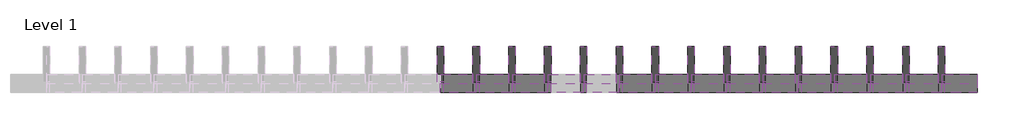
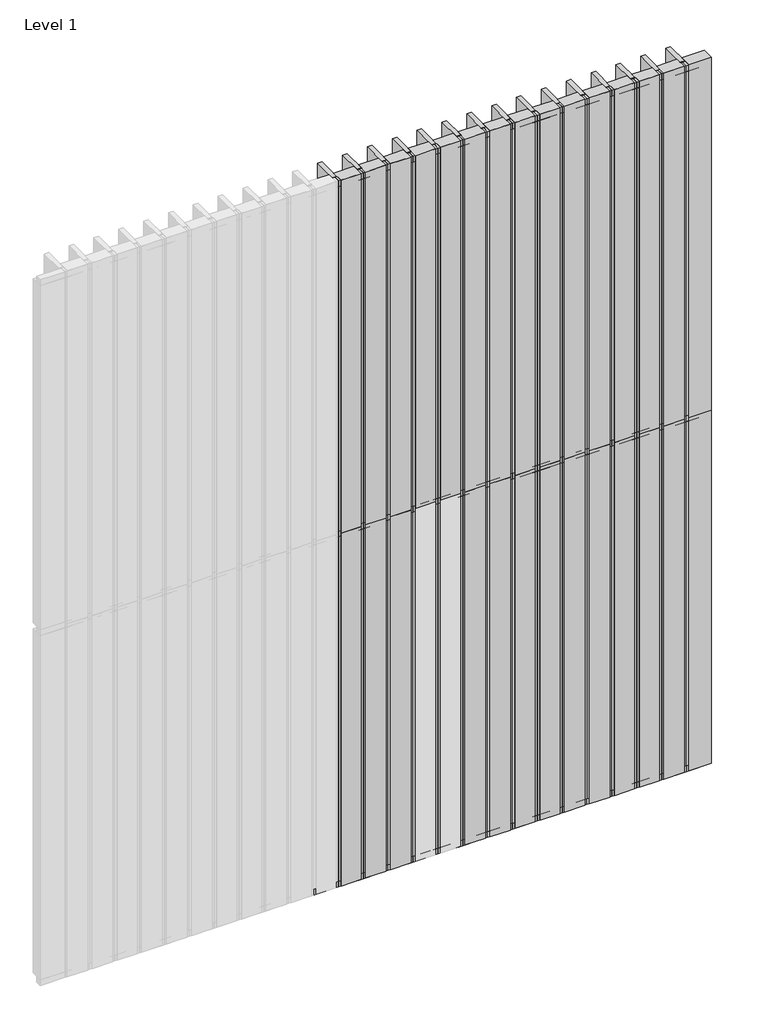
# One storey, part 2 of 2: 76 members, 58 plates.
"""IFC4 building model written with IfcOpenShell, lengths in millimetres."""

from ifc_helpers import new_model, si_unit, origin, place, context, project, spatial, transform, mapped, element, save
from components import rectangular_mullion_20bdfb12, rectangular_mullion_614df7cf, rectangular_mullion_a06afc58, rectangular_mullion_7d91d70c, empty_system_panel_empty_c6c0e791, empty_system_panel_empty_de494967, empty_system_panel_empty_763ef950

model = new_model("IFC4")

# Units and contexts
model_context = context("Model", 3, world=origin())
ifc_project = project(units=[si_unit("LENGTHUNIT", "METRE", prefix="MILLI")], contexts=[model_context])

# Site, building, storey
site = spatial("IfcSite", under=ifc_project)
building = spatial("IfcBuilding", under=site)
storey = spatial("IfcBuildingStorey", under=building, Name="Level 1", Elevation=0.0)

# Members
placement = place(None, origin())
rectangular_mullion_shape = rectangular_mullion_20bdfb12(model_context)
element("IfcMember", 1, ObjectType="Rectangular Mullion : RSen_21_CWM_blade - cubic 200 - 0°_gen_duco projects", at=placement, inside=storey, context=model_context, shape_type="MappedRepresentation", body=[
    mapped(rectangular_mullion_shape, transform((5800.0, 3000.0, 0.0), x_axis=(-1.0, 0.0, 0.0), y_axis=(0.0, 1.0, 0.0), z_axis=(0.0, 0.0, -1.0))),
])
element("IfcMember", 2, ObjectType="Rectangular Mullion : RSen_21_CWM_blade - cubic 200 - 0°_gen_duco projects", at=placement, inside=storey, context=model_context, shape_type="MappedRepresentation", body=[
    mapped(rectangular_mullion_shape, transform((5600.0, 3000.0, 0.0), x_axis=(-1.0, 0.0, 0.0), y_axis=(0.0, 1.0, 0.0), z_axis=(0.0, 0.0, -1.0))),
])
element("IfcMember", 3, ObjectType="Rectangular Mullion : RSen_21_CWM_blade - cubic 200 - 0°_gen_duco projects", at=placement, inside=storey, context=model_context, shape_type="MappedRepresentation", body=[
    mapped(rectangular_mullion_shape, transform((5400.0, 3000.0, 0.0), x_axis=(-1.0, 0.0, 0.0), y_axis=(0.0, 1.0, 0.0), z_axis=(0.0, 0.0, -1.0))),
])
element("IfcMember", 4, ObjectType="Rectangular Mullion : RSen_21_CWM_blade - cubic 200 - 0°_gen_duco projects", at=placement, inside=storey, context=model_context, shape_type="MappedRepresentation", body=[
    mapped(rectangular_mullion_shape, transform((5200.0, 3000.0, 0.0), x_axis=(-1.0, 0.0, 0.0), y_axis=(0.0, 1.0, 0.0), z_axis=(0.0, 0.0, -1.0))),
])
element("IfcMember", 5, ObjectType="Rectangular Mullion : RSen_21_CWM_blade - cubic 200 - 0°_gen_duco projects", at=placement, inside=storey, context=model_context, shape_type="MappedRepresentation", body=[
    mapped(rectangular_mullion_shape, transform((5000.0, 3000.0, 0.0), x_axis=(-1.0, 0.0, 0.0), y_axis=(0.0, 1.0, 0.0), z_axis=(0.0, 0.0, -1.0))),
])
element("IfcMember", 6, ObjectType="Rectangular Mullion : RSen_21_CWM_blade - cubic 200 - 0°_gen_duco projects", at=placement, inside=storey, context=model_context, shape_type="MappedRepresentation", body=[
    mapped(rectangular_mullion_shape, transform((4800.0, 3000.0, 0.0), x_axis=(-1.0, 0.0, 0.0), y_axis=(0.0, 1.0, 0.0), z_axis=(0.0, 0.0, -1.0))),
])
element("IfcMember", 7, ObjectType="Rectangular Mullion : RSen_21_CWM_blade - cubic 200 - 0°_gen_duco projects", at=placement, inside=storey, context=model_context, shape_type="MappedRepresentation", body=[
    mapped(rectangular_mullion_shape, transform((4600.0, 3000.0, 0.0), x_axis=(-1.0, 0.0, 0.0), y_axis=(0.0, 1.0, 0.0), z_axis=(0.0, 0.0, -1.0))),
])
element("IfcMember", 8, ObjectType="Rectangular Mullion : RSen_21_CWM_blade - cubic 200 - 0°_gen_duco projects", at=placement, inside=storey, context=model_context, shape_type="MappedRepresentation", body=[
    mapped(rectangular_mullion_shape, transform((4400.0, 3000.0, 0.0), x_axis=(-1.0, 0.0, 0.0), y_axis=(0.0, 1.0, 0.0), z_axis=(0.0, 0.0, -1.0))),
])
element("IfcMember", 9, ObjectType="Rectangular Mullion : RSen_21_CWM_blade - cubic 200 - 0°_gen_duco projects", at=placement, inside=storey, context=model_context, shape_type="MappedRepresentation", body=[
    mapped(rectangular_mullion_shape, transform((4200.0, 3000.0, 0.0), x_axis=(-1.0, 0.0, 0.0), y_axis=(0.0, 1.0, 0.0), z_axis=(0.0, 0.0, -1.0))),
])
element("IfcMember", 10, ObjectType="Rectangular Mullion : RSen_21_CWM_blade - cubic 200 - 0°_gen_duco projects", at=placement, inside=storey, context=model_context, shape_type="MappedRepresentation", body=[
    mapped(rectangular_mullion_shape, transform((4000.0, 3000.0, 0.0), x_axis=(-1.0, 0.0, 0.0), y_axis=(0.0, 1.0, 0.0), z_axis=(0.0, 0.0, -1.0))),
])
element("IfcMember", 11, ObjectType="Rectangular Mullion : RSen_21_CWM_blade - cubic 200 - 0°_gen_duco projects", at=placement, inside=storey, context=model_context, shape_type="MappedRepresentation", body=[
    mapped(rectangular_mullion_shape, transform((3800.0, 3000.0, 0.0), x_axis=(-1.0, 0.0, 0.0), y_axis=(0.0, 1.0, 0.0), z_axis=(0.0, 0.0, -1.0))),
])
element("IfcMember", 12, ObjectType="Rectangular Mullion : RSen_21_CWM_blade - cubic 200 - 0°_gen_duco projects", at=placement, inside=storey, context=model_context, shape_type="MappedRepresentation", body=[
    mapped(rectangular_mullion_shape, transform((3600.0, 3000.0, 0.0), x_axis=(-1.0, 0.0, 0.0), y_axis=(0.0, 1.0, 0.0), z_axis=(0.0, 0.0, -1.0))),
])
element("IfcMember", 13, ObjectType="Rectangular Mullion : RSen_21_CWM_blade - cubic 200 - 0°_gen_duco projects", at=placement, inside=storey, context=model_context, shape_type="MappedRepresentation", body=[
    mapped(rectangular_mullion_shape, transform((3400.0, 3000.0, 0.0), x_axis=(-1.0, 0.0, 0.0), y_axis=(0.0, 1.0, 0.0), z_axis=(0.0, 0.0, -1.0))),
])
element("IfcMember", 14, ObjectType="Rectangular Mullion : RSen_21_CWM_blade - cubic 200 - 0°_gen_duco projects", at=placement, inside=storey, context=model_context, shape_type="MappedRepresentation", body=[
    mapped(rectangular_mullion_shape, transform((3200.0, 3000.0, 0.0), x_axis=(-1.0, 0.0, 0.0), y_axis=(0.0, 1.0, 0.0), z_axis=(0.0, 0.0, -1.0))),
])
element("IfcMember", 15, ObjectType="Rectangular Mullion : RSen_21_CWM_blade - cubic 200 - 0°_gen_duco projects", at=placement, inside=storey, context=model_context, shape_type="MappedRepresentation", body=[
    mapped(rectangular_mullion_shape, transform((3000.0, 3000.0, 0.0), x_axis=(-1.0, 0.0, 0.0), y_axis=(0.0, 1.0, 0.0), z_axis=(0.0, 0.0, -1.0))),
])
element("IfcMember", 16, ObjectType="Rectangular Mullion : RSen_21_CWM_blade - cubic 200 - 0°_gen_duco projects", at=placement, inside=storey, context=model_context, shape_type="MappedRepresentation", body=[
    mapped(rectangular_mullion_shape, transform((5800.0, 3000.0, 3000.0), x_axis=(-1.0, 0.0, 0.0), y_axis=(0.0, 1.0, 0.0), z_axis=(0.0, 0.0, -1.0))),
])
element("IfcMember", 17, ObjectType="Rectangular Mullion : RSen_21_CWM_blade - cubic 200 - 0°_gen_duco projects", at=placement, inside=storey, context=model_context, shape_type="MappedRepresentation", body=[
    mapped(rectangular_mullion_shape, transform((5600.0, 3000.0, 3000.0), x_axis=(-1.0, 0.0, 0.0), y_axis=(0.0, 1.0, 0.0), z_axis=(0.0, 0.0, -1.0))),
])
element("IfcMember", 18, ObjectType="Rectangular Mullion : RSen_21_CWM_blade - cubic 200 - 0°_gen_duco projects", at=placement, inside=storey, context=model_context, shape_type="MappedRepresentation", body=[
    mapped(rectangular_mullion_shape, transform((5400.0, 3000.0, 3000.0), x_axis=(-1.0, 0.0, 0.0), y_axis=(0.0, 1.0, 0.0), z_axis=(0.0, 0.0, -1.0))),
])
element("IfcMember", 19, ObjectType="Rectangular Mullion : RSen_21_CWM_blade - cubic 200 - 0°_gen_duco projects", at=placement, inside=storey, context=model_context, shape_type="MappedRepresentation", body=[
    mapped(rectangular_mullion_shape, transform((5200.0, 3000.0, 3000.0), x_axis=(-1.0, 0.0, 0.0), y_axis=(0.0, 1.0, 0.0), z_axis=(0.0, 0.0, -1.0))),
])
element("IfcMember", 20, ObjectType="Rectangular Mullion : RSen_21_CWM_blade - cubic 200 - 0°_gen_duco projects", at=placement, inside=storey, context=model_context, shape_type="MappedRepresentation", body=[
    mapped(rectangular_mullion_shape, transform((5000.0, 3000.0, 3000.0), x_axis=(-1.0, 0.0, 0.0), y_axis=(0.0, 1.0, 0.0), z_axis=(0.0, 0.0, -1.0))),
])
element("IfcMember", 21, ObjectType="Rectangular Mullion : RSen_21_CWM_blade - cubic 200 - 0°_gen_duco projects", at=placement, inside=storey, context=model_context, shape_type="MappedRepresentation", body=[
    mapped(rectangular_mullion_shape, transform((4800.0, 3000.0, 3000.0), x_axis=(-1.0, 0.0, 0.0), y_axis=(0.0, 1.0, 0.0), z_axis=(0.0, 0.0, -1.0))),
])
element("IfcMember", 22, ObjectType="Rectangular Mullion : RSen_21_CWM_blade - cubic 200 - 0°_gen_duco projects", at=placement, inside=storey, context=model_context, shape_type="MappedRepresentation", body=[
    mapped(rectangular_mullion_shape, transform((4600.0, 3000.0, 3000.0), x_axis=(-1.0, 0.0, 0.0), y_axis=(0.0, 1.0, 0.0), z_axis=(0.0, 0.0, -1.0))),
])
element("IfcMember", 23, ObjectType="Rectangular Mullion : RSen_21_CWM_blade - cubic 200 - 0°_gen_duco projects", at=placement, inside=storey, context=model_context, shape_type="MappedRepresentation", body=[
    mapped(rectangular_mullion_shape, transform((4400.0, 3000.0, 3000.0), x_axis=(-1.0, 0.0, 0.0), y_axis=(0.0, 1.0, 0.0), z_axis=(0.0, 0.0, -1.0))),
])
element("IfcMember", 24, ObjectType="Rectangular Mullion : RSen_21_CWM_blade - cubic 200 - 0°_gen_duco projects", at=placement, inside=storey, context=model_context, shape_type="MappedRepresentation", body=[
    mapped(rectangular_mullion_shape, transform((4200.0, 3000.0, 3000.0), x_axis=(-1.0, 0.0, 0.0), y_axis=(0.0, 1.0, 0.0), z_axis=(0.0, 0.0, -1.0))),
])
element("IfcMember", 25, ObjectType="Rectangular Mullion : RSen_21_CWM_blade - cubic 200 - 0°_gen_duco projects", at=placement, inside=storey, context=model_context, shape_type="MappedRepresentation", body=[
    mapped(rectangular_mullion_shape, transform((4000.0, 3000.0, 3000.0), x_axis=(-1.0, 0.0, 0.0), y_axis=(0.0, 1.0, 0.0), z_axis=(0.0, 0.0, -1.0))),
])
element("IfcMember", 26, ObjectType="Rectangular Mullion : RSen_21_CWM_blade - cubic 200 - 0°_gen_duco projects", at=placement, inside=storey, context=model_context, shape_type="MappedRepresentation", body=[
    mapped(rectangular_mullion_shape, transform((3800.0, 3000.0, 3000.0), x_axis=(-1.0, 0.0, 0.0), y_axis=(0.0, 1.0, 0.0), z_axis=(0.0, 0.0, -1.0))),
])
element("IfcMember", 27, ObjectType="Rectangular Mullion : RSen_21_CWM_blade - cubic 200 - 0°_gen_duco projects", at=placement, inside=storey, context=model_context, shape_type="MappedRepresentation", body=[
    mapped(rectangular_mullion_shape, transform((3600.0, 3000.0, 3000.0), x_axis=(-1.0, 0.0, 0.0), y_axis=(0.0, 1.0, 0.0), z_axis=(0.0, 0.0, -1.0))),
])
element("IfcMember", 28, ObjectType="Rectangular Mullion : RSen_21_CWM_blade - cubic 200 - 0°_gen_duco projects", at=placement, inside=storey, context=model_context, shape_type="MappedRepresentation", body=[
    mapped(rectangular_mullion_shape, transform((3400.0, 3000.0, 3000.0), x_axis=(-1.0, 0.0, 0.0), y_axis=(0.0, 1.0, 0.0), z_axis=(0.0, 0.0, -1.0))),
])
element("IfcMember", 29, ObjectType="Rectangular Mullion : RSen_21_CWM_blade - cubic 200 - 0°_gen_duco projects", at=placement, inside=storey, context=model_context, shape_type="MappedRepresentation", body=[
    mapped(rectangular_mullion_shape, transform((3200.0, 3000.0, 3000.0), x_axis=(-1.0, 0.0, 0.0), y_axis=(0.0, 1.0, 0.0), z_axis=(0.0, 0.0, -1.0))),
])
element("IfcMember", 30, ObjectType="Rectangular Mullion : RSen_21_CWM_blade - cubic 200 - 0°_gen_duco projects", at=placement, inside=storey, context=model_context, shape_type="MappedRepresentation", body=[
    mapped(rectangular_mullion_shape, transform((3000.0, 3000.0, 3000.0), x_axis=(-1.0, 0.0, 0.0), y_axis=(0.0, 1.0, 0.0), z_axis=(0.0, 0.0, -1.0))),
])
rectangular_mullion_2_shape = rectangular_mullion_614df7cf(model_context)
element("IfcMember", 31, ObjectType="Rectangular Mullion : RSen_21_CWM_support profile 50x50 - right_gen_duco projects", at=placement, inside=storey, context=model_context, shape_type="MappedRepresentation", body=[
    mapped(rectangular_mullion_2_shape, transform((6000.0, 3000.0, 0.0), x_axis=(0.0, 0.0, -1.0), y_axis=(0.0, 1.0, 0.0), z_axis=(1.0, 0.0, 0.0))),
])
rectangular_mullion_3_shape = rectangular_mullion_a06afc58(model_context)
element("IfcMember", 32, ObjectType="Rectangular Mullion : RSen_21_CWM_support profile 50x50 - left_gen_duco projects", at=placement, inside=storey, context=model_context, shape_type="MappedRepresentation", body=[
    mapped(rectangular_mullion_3_shape, transform((5800.0, 3000.0, 6000.0), x_axis=(0.0, 0.0, 1.0), y_axis=(0.0, 1.0, 0.0), z_axis=(-1.0, 0.0, 0.0))),
])
element("IfcMember", 33, ObjectType="Rectangular Mullion : RSen_21_CWM_support profile 50x50 - left_gen_duco projects", at=placement, inside=storey, context=model_context, shape_type="MappedRepresentation", body=[
    mapped(rectangular_mullion_3_shape, transform((5600.0, 3000.0, 6000.0), x_axis=(0.0, 0.0, 1.0), y_axis=(0.0, 1.0, 0.0), z_axis=(-1.0, 0.0, 0.0))),
])
element("IfcMember", 34, ObjectType="Rectangular Mullion : RSen_21_CWM_support profile 50x50 - left_gen_duco projects", at=placement, inside=storey, context=model_context, shape_type="MappedRepresentation", body=[
    mapped(rectangular_mullion_3_shape, transform((5400.0, 3000.0, 6000.0), x_axis=(0.0, 0.0, 1.0), y_axis=(0.0, 1.0, 0.0), z_axis=(-1.0, 0.0, 0.0))),
])
element("IfcMember", 35, ObjectType="Rectangular Mullion : RSen_21_CWM_support profile 50x50 - left_gen_duco projects", at=placement, inside=storey, context=model_context, shape_type="MappedRepresentation", body=[
    mapped(rectangular_mullion_3_shape, transform((5200.0, 3000.0, 6000.0), x_axis=(0.0, 0.0, 1.0), y_axis=(0.0, 1.0, 0.0), z_axis=(-1.0, 0.0, 0.0))),
])
element("IfcMember", 36, ObjectType="Rectangular Mullion : RSen_21_CWM_support profile 50x50 - left_gen_duco projects", at=placement, inside=storey, context=model_context, shape_type="MappedRepresentation", body=[
    mapped(rectangular_mullion_3_shape, transform((5000.0, 3000.0, 6000.0), x_axis=(0.0, 0.0, 1.0), y_axis=(0.0, 1.0, 0.0), z_axis=(-1.0, 0.0, 0.0))),
])
element("IfcMember", 37, ObjectType="Rectangular Mullion : RSen_21_CWM_support profile 50x50 - left_gen_duco projects", at=placement, inside=storey, context=model_context, shape_type="MappedRepresentation", body=[
    mapped(rectangular_mullion_3_shape, transform((4800.0, 3000.0, 6000.0), x_axis=(0.0, 0.0, 1.0), y_axis=(0.0, 1.0, 0.0), z_axis=(-1.0, 0.0, 0.0))),
])
element("IfcMember", 38, ObjectType="Rectangular Mullion : RSen_21_CWM_support profile 50x50 - left_gen_duco projects", at=placement, inside=storey, context=model_context, shape_type="MappedRepresentation", body=[
    mapped(rectangular_mullion_3_shape, transform((4600.0, 3000.0, 6000.0), x_axis=(0.0, 0.0, 1.0), y_axis=(0.0, 1.0, 0.0), z_axis=(-1.0, 0.0, 0.0))),
])
element("IfcMember", 39, ObjectType="Rectangular Mullion : RSen_21_CWM_support profile 50x50 - left_gen_duco projects", at=placement, inside=storey, context=model_context, shape_type="MappedRepresentation", body=[
    mapped(rectangular_mullion_3_shape, transform((4400.0, 3000.0, 6000.0), x_axis=(0.0, 0.0, 1.0), y_axis=(0.0, 1.0, 0.0), z_axis=(-1.0, 0.0, 0.0))),
])
element("IfcMember", 40, ObjectType="Rectangular Mullion : RSen_21_CWM_support profile 50x50 - left_gen_duco projects", at=placement, inside=storey, context=model_context, shape_type="MappedRepresentation", body=[
    mapped(rectangular_mullion_3_shape, transform((4200.0, 3000.0, 6000.0), x_axis=(0.0, 0.0, 1.0), y_axis=(0.0, 1.0, 0.0), z_axis=(-1.0, 0.0, 0.0))),
])
element("IfcMember", 41, ObjectType="Rectangular Mullion : RSen_21_CWM_support profile 50x50 - left_gen_duco projects", at=placement, inside=storey, context=model_context, shape_type="MappedRepresentation", body=[
    mapped(rectangular_mullion_3_shape, transform((4000.0, 3000.0, 6000.0), x_axis=(0.0, 0.0, 1.0), y_axis=(0.0, 1.0, 0.0), z_axis=(-1.0, 0.0, 0.0))),
])
element("IfcMember", 42, ObjectType="Rectangular Mullion : RSen_21_CWM_support profile 50x50 - left_gen_duco projects", at=placement, inside=storey, context=model_context, shape_type="MappedRepresentation", body=[
    mapped(rectangular_mullion_3_shape, transform((3800.0, 3000.0, 6000.0), x_axis=(0.0, 0.0, 1.0), y_axis=(0.0, 1.0, 0.0), z_axis=(-1.0, 0.0, 0.0))),
])
element("IfcMember", 43, ObjectType="Rectangular Mullion : RSen_21_CWM_support profile 50x50 - left_gen_duco projects", at=placement, inside=storey, context=model_context, shape_type="MappedRepresentation", body=[
    mapped(rectangular_mullion_3_shape, transform((3600.0, 3000.0, 6000.0), x_axis=(0.0, 0.0, 1.0), y_axis=(0.0, 1.0, 0.0), z_axis=(-1.0, 0.0, 0.0))),
])
element("IfcMember", 44, ObjectType="Rectangular Mullion : RSen_21_CWM_support profile 50x50 - left_gen_duco projects", at=placement, inside=storey, context=model_context, shape_type="MappedRepresentation", body=[
    mapped(rectangular_mullion_3_shape, transform((3400.0, 3000.0, 6000.0), x_axis=(0.0, 0.0, 1.0), y_axis=(0.0, 1.0, 0.0), z_axis=(-1.0, 0.0, 0.0))),
])
element("IfcMember", 45, ObjectType="Rectangular Mullion : RSen_21_CWM_support profile 50x50 - left_gen_duco projects", at=placement, inside=storey, context=model_context, shape_type="MappedRepresentation", body=[
    mapped(rectangular_mullion_3_shape, transform((3200.0, 3000.0, 6000.0), x_axis=(0.0, 0.0, 1.0), y_axis=(0.0, 1.0, 0.0), z_axis=(-1.0, 0.0, 0.0))),
])
element("IfcMember", 46, ObjectType="Rectangular Mullion : RSen_21_CWM_support profile 50x50 - left_gen_duco projects", at=placement, inside=storey, context=model_context, shape_type="MappedRepresentation", body=[
    mapped(rectangular_mullion_3_shape, transform((3000.0, 3000.0, 6000.0), x_axis=(0.0, 0.0, 1.0), y_axis=(0.0, 1.0, 0.0), z_axis=(-1.0, 0.0, 0.0))),
])
element("IfcMember", 47, ObjectType="Rectangular Mullion : RSen_21_CWM_support profile 50x50 - right_gen_duco projects", at=placement, inside=storey, context=model_context, shape_type="MappedRepresentation", body=[
    mapped(rectangular_mullion_2_shape, transform((5800.0, 3000.0, 0.0), x_axis=(0.0, 0.0, -1.0), y_axis=(0.0, 1.0, 0.0), z_axis=(1.0, 0.0, 0.0))),
])
element("IfcMember", 48, ObjectType="Rectangular Mullion : RSen_21_CWM_support profile 50x50 - right_gen_duco projects", at=placement, inside=storey, context=model_context, shape_type="MappedRepresentation", body=[
    mapped(rectangular_mullion_2_shape, transform((5600.0, 3000.0, 0.0), x_axis=(0.0, 0.0, -1.0), y_axis=(0.0, 1.0, 0.0), z_axis=(1.0, 0.0, 0.0))),
])
element("IfcMember", 49, ObjectType="Rectangular Mullion : RSen_21_CWM_support profile 50x50 - right_gen_duco projects", at=placement, inside=storey, context=model_context, shape_type="MappedRepresentation", body=[
    mapped(rectangular_mullion_2_shape, transform((5400.0, 3000.0, 0.0), x_axis=(0.0, 0.0, -1.0), y_axis=(0.0, 1.0, 0.0), z_axis=(1.0, 0.0, 0.0))),
])
element("IfcMember", 50, ObjectType="Rectangular Mullion : RSen_21_CWM_support profile 50x50 - right_gen_duco projects", at=placement, inside=storey, context=model_context, shape_type="MappedRepresentation", body=[
    mapped(rectangular_mullion_2_shape, transform((5200.0, 3000.0, 0.0), x_axis=(0.0, 0.0, -1.0), y_axis=(0.0, 1.0, 0.0), z_axis=(1.0, 0.0, 0.0))),
])
element("IfcMember", 51, ObjectType="Rectangular Mullion : RSen_21_CWM_support profile 50x50 - right_gen_duco projects", at=placement, inside=storey, context=model_context, shape_type="MappedRepresentation", body=[
    mapped(rectangular_mullion_2_shape, transform((5000.0, 3000.0, 0.0), x_axis=(0.0, 0.0, -1.0), y_axis=(0.0, 1.0, 0.0), z_axis=(1.0, 0.0, 0.0))),
])
element("IfcMember", 52, ObjectType="Rectangular Mullion : RSen_21_CWM_support profile 50x50 - right_gen_duco projects", at=placement, inside=storey, context=model_context, shape_type="MappedRepresentation", body=[
    mapped(rectangular_mullion_2_shape, transform((4800.0, 3000.0, 0.0), x_axis=(0.0, 0.0, -1.0), y_axis=(0.0, 1.0, 0.0), z_axis=(1.0, 0.0, 0.0))),
])
element("IfcMember", 53, ObjectType="Rectangular Mullion : RSen_21_CWM_support profile 50x50 - right_gen_duco projects", at=placement, inside=storey, context=model_context, shape_type="MappedRepresentation", body=[
    mapped(rectangular_mullion_2_shape, transform((4600.0, 3000.0, 0.0), x_axis=(0.0, 0.0, -1.0), y_axis=(0.0, 1.0, 0.0), z_axis=(1.0, 0.0, 0.0))),
])
element("IfcMember", 54, ObjectType="Rectangular Mullion : RSen_21_CWM_support profile 50x50 - right_gen_duco projects", at=placement, inside=storey, context=model_context, shape_type="MappedRepresentation", body=[
    mapped(rectangular_mullion_2_shape, transform((4400.0, 3000.0, 0.0), x_axis=(0.0, 0.0, -1.0), y_axis=(0.0, 1.0, 0.0), z_axis=(1.0, 0.0, 0.0))),
])
element("IfcMember", 55, ObjectType="Rectangular Mullion : RSen_21_CWM_support profile 50x50 - right_gen_duco projects", at=placement, inside=storey, context=model_context, shape_type="MappedRepresentation", body=[
    mapped(rectangular_mullion_2_shape, transform((4200.0, 3000.0, 0.0), x_axis=(0.0, 0.0, -1.0), y_axis=(0.0, 1.0, 0.0), z_axis=(1.0, 0.0, 0.0))),
])
element("IfcMember", 56, ObjectType="Rectangular Mullion : RSen_21_CWM_support profile 50x50 - right_gen_duco projects", at=placement, inside=storey, context=model_context, shape_type="MappedRepresentation", body=[
    mapped(rectangular_mullion_2_shape, transform((4000.0, 3000.0, 0.0), x_axis=(0.0, 0.0, -1.0), y_axis=(0.0, 1.0, 0.0), z_axis=(1.0, 0.0, 0.0))),
])
element("IfcMember", 57, ObjectType="Rectangular Mullion : RSen_21_CWM_support profile 50x50 - right_gen_duco projects", at=placement, inside=storey, context=model_context, shape_type="MappedRepresentation", body=[
    mapped(rectangular_mullion_2_shape, transform((3800.0, 3000.0, 0.0), x_axis=(0.0, 0.0, -1.0), y_axis=(0.0, 1.0, 0.0), z_axis=(1.0, 0.0, 0.0))),
])
element("IfcMember", 58, ObjectType="Rectangular Mullion : RSen_21_CWM_support profile 50x50 - right_gen_duco projects", at=placement, inside=storey, context=model_context, shape_type="MappedRepresentation", body=[
    mapped(rectangular_mullion_2_shape, transform((3600.0, 3000.0, 0.0), x_axis=(0.0, 0.0, -1.0), y_axis=(0.0, 1.0, 0.0), z_axis=(1.0, 0.0, 0.0))),
])
element("IfcMember", 59, ObjectType="Rectangular Mullion : RSen_21_CWM_support profile 50x50 - right_gen_duco projects", at=placement, inside=storey, context=model_context, shape_type="MappedRepresentation", body=[
    mapped(rectangular_mullion_2_shape, transform((3400.0, 3000.0, 0.0), x_axis=(0.0, 0.0, -1.0), y_axis=(0.0, 1.0, 0.0), z_axis=(1.0, 0.0, 0.0))),
])
element("IfcMember", 60, ObjectType="Rectangular Mullion : RSen_21_CWM_support profile 50x50 - right_gen_duco projects", at=placement, inside=storey, context=model_context, shape_type="MappedRepresentation", body=[
    mapped(rectangular_mullion_2_shape, transform((3200.0, 3000.0, 0.0), x_axis=(0.0, 0.0, -1.0), y_axis=(0.0, 1.0, 0.0), z_axis=(1.0, 0.0, 0.0))),
])
element("IfcMember", 61, ObjectType="Rectangular Mullion : RSen_21_CWM_support profile 50x50 - right_gen_duco projects", at=placement, inside=storey, context=model_context, shape_type="MappedRepresentation", body=[
    mapped(rectangular_mullion_2_shape, transform((3000.0, 3000.0, 0.0), x_axis=(0.0, 0.0, -1.0), y_axis=(0.0, 1.0, 0.0), z_axis=(1.0, 0.0, 0.0))),
])
rectangular_mullion_4_shape = rectangular_mullion_7d91d70c(model_context)
element("IfcMember", 62, ObjectType="Rectangular Mullion : RSen_21_CWM_support profile 50x50_gen_duco projects", at=placement, inside=storey, context=model_context, shape_type="MappedRepresentation", body=[
    mapped(rectangular_mullion_4_shape, transform((5800.0, 3000.0, 3000.0), x_axis=(0.0, 0.0, 1.0), y_axis=(0.0, 1.0, 0.0), z_axis=(-1.0, 0.0, 0.0))),
])
element("IfcMember", 63, ObjectType="Rectangular Mullion : RSen_21_CWM_support profile 50x50_gen_duco projects", at=placement, inside=storey, context=model_context, shape_type="MappedRepresentation", body=[
    mapped(rectangular_mullion_4_shape, transform((5600.0, 3000.0, 3000.0), x_axis=(0.0, 0.0, 1.0), y_axis=(0.0, 1.0, 0.0), z_axis=(-1.0, 0.0, 0.0))),
])
element("IfcMember", 64, ObjectType="Rectangular Mullion : RSen_21_CWM_support profile 50x50_gen_duco projects", at=placement, inside=storey, context=model_context, shape_type="MappedRepresentation", body=[
    mapped(rectangular_mullion_4_shape, transform((5400.0, 3000.0, 3000.0), x_axis=(0.0, 0.0, 1.0), y_axis=(0.0, 1.0, 0.0), z_axis=(-1.0, 0.0, 0.0))),
])
element("IfcMember", 65, ObjectType="Rectangular Mullion : RSen_21_CWM_support profile 50x50_gen_duco projects", at=placement, inside=storey, context=model_context, shape_type="MappedRepresentation", body=[
    mapped(rectangular_mullion_4_shape, transform((5200.0, 3000.0, 3000.0), x_axis=(0.0, 0.0, 1.0), y_axis=(0.0, 1.0, 0.0), z_axis=(-1.0, 0.0, 0.0))),
])
element("IfcMember", 66, ObjectType="Rectangular Mullion : RSen_21_CWM_support profile 50x50_gen_duco projects", at=placement, inside=storey, context=model_context, shape_type="MappedRepresentation", body=[
    mapped(rectangular_mullion_4_shape, transform((5000.0, 3000.0, 3000.0), x_axis=(0.0, 0.0, 1.0), y_axis=(0.0, 1.0, 0.0), z_axis=(-1.0, 0.0, 0.0))),
])
element("IfcMember", 67, ObjectType="Rectangular Mullion : RSen_21_CWM_support profile 50x50_gen_duco projects", at=placement, inside=storey, context=model_context, shape_type="MappedRepresentation", body=[
    mapped(rectangular_mullion_4_shape, transform((4800.0, 3000.0, 3000.0), x_axis=(0.0, 0.0, 1.0), y_axis=(0.0, 1.0, 0.0), z_axis=(-1.0, 0.0, 0.0))),
])
element("IfcMember", 68, ObjectType="Rectangular Mullion : RSen_21_CWM_support profile 50x50_gen_duco projects", at=placement, inside=storey, context=model_context, shape_type="MappedRepresentation", body=[
    mapped(rectangular_mullion_4_shape, transform((4600.0, 3000.0, 3000.0), x_axis=(0.0, 0.0, 1.0), y_axis=(0.0, 1.0, 0.0), z_axis=(-1.0, 0.0, 0.0))),
])
element("IfcMember", 69, ObjectType="Rectangular Mullion : RSen_21_CWM_support profile 50x50_gen_duco projects", at=placement, inside=storey, context=model_context, shape_type="MappedRepresentation", body=[
    mapped(rectangular_mullion_4_shape, transform((4400.0, 3000.0, 3000.0), x_axis=(0.0, 0.0, 1.0), y_axis=(0.0, 1.0, 0.0), z_axis=(-1.0, 0.0, 0.0))),
])
element("IfcMember", 70, ObjectType="Rectangular Mullion : RSen_21_CWM_support profile 50x50_gen_duco projects", at=placement, inside=storey, context=model_context, shape_type="MappedRepresentation", body=[
    mapped(rectangular_mullion_4_shape, transform((4200.0, 3000.0, 3000.0), x_axis=(0.0, 0.0, 1.0), y_axis=(0.0, 1.0, 0.0), z_axis=(-1.0, 0.0, 0.0))),
])
element("IfcMember", 71, ObjectType="Rectangular Mullion : RSen_21_CWM_support profile 50x50_gen_duco projects", at=placement, inside=storey, context=model_context, shape_type="MappedRepresentation", body=[
    mapped(rectangular_mullion_4_shape, transform((4000.0, 3000.0, 3000.0), x_axis=(0.0, 0.0, 1.0), y_axis=(0.0, 1.0, 0.0), z_axis=(-1.0, 0.0, 0.0))),
])
element("IfcMember", 72, ObjectType="Rectangular Mullion : RSen_21_CWM_support profile 50x50_gen_duco projects", at=placement, inside=storey, context=model_context, shape_type="MappedRepresentation", body=[
    mapped(rectangular_mullion_4_shape, transform((3800.0, 3000.0, 3000.0), x_axis=(0.0, 0.0, 1.0), y_axis=(0.0, 1.0, 0.0), z_axis=(-1.0, 0.0, 0.0))),
])
element("IfcMember", 73, ObjectType="Rectangular Mullion : RSen_21_CWM_support profile 50x50_gen_duco projects", at=placement, inside=storey, context=model_context, shape_type="MappedRepresentation", body=[
    mapped(rectangular_mullion_4_shape, transform((3600.0, 3000.0, 3000.0), x_axis=(0.0, 0.0, 1.0), y_axis=(0.0, 1.0, 0.0), z_axis=(-1.0, 0.0, 0.0))),
])
element("IfcMember", 74, ObjectType="Rectangular Mullion : RSen_21_CWM_support profile 50x50_gen_duco projects", at=placement, inside=storey, context=model_context, shape_type="MappedRepresentation", body=[
    mapped(rectangular_mullion_4_shape, transform((3400.0, 3000.0, 3000.0), x_axis=(0.0, 0.0, 1.0), y_axis=(0.0, 1.0, 0.0), z_axis=(-1.0, 0.0, 0.0))),
])
element("IfcMember", 75, ObjectType="Rectangular Mullion : RSen_21_CWM_support profile 50x50_gen_duco projects", at=placement, inside=storey, context=model_context, shape_type="MappedRepresentation", body=[
    mapped(rectangular_mullion_4_shape, transform((3200.0, 3000.0, 3000.0), x_axis=(0.0, 0.0, 1.0), y_axis=(0.0, 1.0, 0.0), z_axis=(-1.0, 0.0, 0.0))),
])
element("IfcMember", 76, ObjectType="Rectangular Mullion : RSen_21_CWM_support profile 50x50_gen_duco projects", at=placement, inside=storey, context=model_context, shape_type="MappedRepresentation", body=[
    mapped(rectangular_mullion_4_shape, transform((3000.0, 3000.0, 3000.0), x_axis=(0.0, 0.0, 1.0), y_axis=(0.0, 1.0, 0.0), z_axis=(-1.0, 0.0, 0.0))),
])

# Plates
empty_system_panel_empty_shape = empty_system_panel_empty_c6c0e791(model_context)
element("IfcPlate", 77, ObjectType="Empty System Panel : Empty", at=placement, inside=storey, context=model_context, shape_type="MappedRepresentation", body=[
    mapped(empty_system_panel_empty_shape, transform((5909.25, 3000.0, 0.0), x_axis=(-1.0, 0.0, 0.0), y_axis=(0.0, -1.0, 0.0), z_axis=(0.0, 0.0, 1.0))),
])
element("IfcPlate", 78, ObjectType="Empty System Panel : Empty", at=placement, inside=storey, context=model_context, shape_type="MappedRepresentation", body=[
    mapped(empty_system_panel_empty_shape, transform((5909.25, 3000.0, 3000.0), x_axis=(-1.0, 0.0, 0.0), y_axis=(0.0, -1.0, 0.0), z_axis=(0.0, 0.0, 1.0))),
])
empty_system_panel_empty_2_shape = empty_system_panel_empty_de494967(model_context)
element("IfcPlate", 79, ObjectType="Empty System Panel : Empty", at=placement, inside=storey, context=model_context, shape_type="MappedRepresentation", body=[
    mapped(empty_system_panel_empty_2_shape, transform((5700.0, 3000.0, 0.0), x_axis=(-1.0, 0.0, 0.0), y_axis=(0.0, -1.0, 0.0), z_axis=(0.0, 0.0, 1.0))),
])
element("IfcPlate", 80, ObjectType="Empty System Panel : Empty", at=placement, inside=storey, context=model_context, shape_type="MappedRepresentation", body=[
    mapped(empty_system_panel_empty_2_shape, transform((5500.0, 3000.0, 0.0), x_axis=(-1.0, 0.0, 0.0), y_axis=(0.0, -1.0, 0.0), z_axis=(0.0, 0.0, 1.0))),
])
element("IfcPlate", 81, ObjectType="Empty System Panel : Empty", at=placement, inside=storey, context=model_context, shape_type="MappedRepresentation", body=[
    mapped(empty_system_panel_empty_2_shape, transform((5300.0, 3000.0, 0.0), x_axis=(-1.0, 0.0, 0.0), y_axis=(0.0, -1.0, 0.0), z_axis=(0.0, 0.0, 1.0))),
])
element("IfcPlate", 82, ObjectType="Empty System Panel : Empty", at=placement, inside=storey, context=model_context, shape_type="MappedRepresentation", body=[
    mapped(empty_system_panel_empty_2_shape, transform((5100.0, 3000.0, 0.0), x_axis=(-1.0, 0.0, 0.0), y_axis=(0.0, -1.0, 0.0), z_axis=(0.0, 0.0, 1.0))),
])
element("IfcPlate", 83, ObjectType="Empty System Panel : Empty", at=placement, inside=storey, context=model_context, shape_type="MappedRepresentation", body=[
    mapped(empty_system_panel_empty_2_shape, transform((4900.0, 3000.0, 0.0), x_axis=(-1.0, 0.0, 0.0), y_axis=(0.0, -1.0, 0.0), z_axis=(0.0, 0.0, 1.0))),
])
element("IfcPlate", 84, ObjectType="Empty System Panel : Empty", at=placement, inside=storey, context=model_context, shape_type="MappedRepresentation", body=[
    mapped(empty_system_panel_empty_2_shape, transform((4700.0, 3000.0, 0.0), x_axis=(-1.0, 0.0, 0.0), y_axis=(0.0, -1.0, 0.0), z_axis=(0.0, 0.0, 1.0))),
])
element("IfcPlate", 85, ObjectType="Empty System Panel : Empty", at=placement, inside=storey, context=model_context, shape_type="MappedRepresentation", body=[
    mapped(empty_system_panel_empty_2_shape, transform((4500.0, 3000.0, 0.0), x_axis=(-1.0, 0.0, 0.0), y_axis=(0.0, -1.0, 0.0), z_axis=(0.0, 0.0, 1.0))),
])
element("IfcPlate", 86, ObjectType="Empty System Panel : Empty", at=placement, inside=storey, context=model_context, shape_type="MappedRepresentation", body=[
    mapped(empty_system_panel_empty_2_shape, transform((4300.0, 3000.0, 0.0), x_axis=(-1.0, 0.0, 0.0), y_axis=(0.0, -1.0, 0.0), z_axis=(0.0, 0.0, 1.0))),
])
element("IfcPlate", 87, ObjectType="Empty System Panel : Empty", at=placement, inside=storey, context=model_context, shape_type="MappedRepresentation", body=[
    mapped(empty_system_panel_empty_2_shape, transform((4100.0, 3000.0, 0.0), x_axis=(-1.0, 0.0, 0.0), y_axis=(0.0, -1.0, 0.0), z_axis=(0.0, 0.0, 1.0))),
])
element("IfcPlate", 88, ObjectType="Empty System Panel : Empty", at=placement, inside=storey, context=model_context, shape_type="MappedRepresentation", body=[
    mapped(empty_system_panel_empty_2_shape, transform((3500.0, 3000.0, 0.0), x_axis=(-1.0, 0.0, 0.0), y_axis=(0.0, -1.0, 0.0), z_axis=(0.0, 0.0, 1.0))),
])
element("IfcPlate", 89, ObjectType="Empty System Panel : Empty", at=placement, inside=storey, context=model_context, shape_type="MappedRepresentation", body=[
    mapped(empty_system_panel_empty_2_shape, transform((3300.0, 3000.0, 0.0), x_axis=(-1.0, 0.0, 0.0), y_axis=(0.0, -1.0, 0.0), z_axis=(0.0, 0.0, 1.0))),
])
element("IfcPlate", 90, ObjectType="Empty System Panel : Empty", at=placement, inside=storey, context=model_context, shape_type="MappedRepresentation", body=[
    mapped(empty_system_panel_empty_2_shape, transform((3100.0, 3000.0, 0.0), x_axis=(-1.0, 0.0, 0.0), y_axis=(0.0, -1.0, 0.0), z_axis=(0.0, 0.0, 1.0))),
])
element("IfcPlate", 91, ObjectType="Empty System Panel : Empty", at=placement, inside=storey, context=model_context, shape_type="MappedRepresentation", body=[
    mapped(empty_system_panel_empty_2_shape, transform((5700.0, 3000.0, 3000.0), x_axis=(-1.0, 0.0, 0.0), y_axis=(0.0, -1.0, 0.0), z_axis=(0.0, 0.0, 1.0))),
])
element("IfcPlate", 92, ObjectType="Empty System Panel : Empty", at=placement, inside=storey, context=model_context, shape_type="MappedRepresentation", body=[
    mapped(empty_system_panel_empty_2_shape, transform((5500.0, 3000.0, 3000.0), x_axis=(-1.0, 0.0, 0.0), y_axis=(0.0, -1.0, 0.0), z_axis=(0.0, 0.0, 1.0))),
])
element("IfcPlate", 93, ObjectType="Empty System Panel : Empty", at=placement, inside=storey, context=model_context, shape_type="MappedRepresentation", body=[
    mapped(empty_system_panel_empty_2_shape, transform((5300.0, 3000.0, 3000.0), x_axis=(-1.0, 0.0, 0.0), y_axis=(0.0, -1.0, 0.0), z_axis=(0.0, 0.0, 1.0))),
])
element("IfcPlate", 94, ObjectType="Empty System Panel : Empty", at=placement, inside=storey, context=model_context, shape_type="MappedRepresentation", body=[
    mapped(empty_system_panel_empty_2_shape, transform((5100.0, 3000.0, 3000.0), x_axis=(-1.0, 0.0, 0.0), y_axis=(0.0, -1.0, 0.0), z_axis=(0.0, 0.0, 1.0))),
])
element("IfcPlate", 95, ObjectType="Empty System Panel : Empty", at=placement, inside=storey, context=model_context, shape_type="MappedRepresentation", body=[
    mapped(empty_system_panel_empty_2_shape, transform((4900.0, 3000.0, 3000.0), x_axis=(-1.0, 0.0, 0.0), y_axis=(0.0, -1.0, 0.0), z_axis=(0.0, 0.0, 1.0))),
])
element("IfcPlate", 96, ObjectType="Empty System Panel : Empty", at=placement, inside=storey, context=model_context, shape_type="MappedRepresentation", body=[
    mapped(empty_system_panel_empty_2_shape, transform((4700.0, 3000.0, 3000.0), x_axis=(-1.0, 0.0, 0.0), y_axis=(0.0, -1.0, 0.0), z_axis=(0.0, 0.0, 1.0))),
])
element("IfcPlate", 97, ObjectType="Empty System Panel : Empty", at=placement, inside=storey, context=model_context, shape_type="MappedRepresentation", body=[
    mapped(empty_system_panel_empty_2_shape, transform((4500.0, 3000.0, 3000.0), x_axis=(-1.0, 0.0, 0.0), y_axis=(0.0, -1.0, 0.0), z_axis=(0.0, 0.0, 1.0))),
])
element("IfcPlate", 98, ObjectType="Empty System Panel : Empty", at=placement, inside=storey, context=model_context, shape_type="MappedRepresentation", body=[
    mapped(empty_system_panel_empty_2_shape, transform((4300.0, 3000.0, 3000.0), x_axis=(-1.0, 0.0, 0.0), y_axis=(0.0, -1.0, 0.0), z_axis=(0.0, 0.0, 1.0))),
])
element("IfcPlate", 99, ObjectType="Empty System Panel : Empty", at=placement, inside=storey, context=model_context, shape_type="MappedRepresentation", body=[
    mapped(empty_system_panel_empty_2_shape, transform((4100.0, 3000.0, 3000.0), x_axis=(-1.0, 0.0, 0.0), y_axis=(0.0, -1.0, 0.0), z_axis=(0.0, 0.0, 1.0))),
])
element("IfcPlate", 100, ObjectType="Empty System Panel : Empty", at=placement, inside=storey, context=model_context, shape_type="MappedRepresentation", body=[
    mapped(empty_system_panel_empty_2_shape, transform((3900.0, 3000.0, 3000.0), x_axis=(-1.0, 0.0, 0.0), y_axis=(0.0, -1.0, 0.0), z_axis=(0.0, 0.0, 1.0))),
])
element("IfcPlate", 101, ObjectType="Empty System Panel : Empty", at=placement, inside=storey, context=model_context, shape_type="MappedRepresentation", body=[
    mapped(empty_system_panel_empty_2_shape, transform((3700.0, 3000.0, 3000.0), x_axis=(-1.0, 0.0, 0.0), y_axis=(0.0, -1.0, 0.0), z_axis=(0.0, 0.0, 1.0))),
])
element("IfcPlate", 102, ObjectType="Empty System Panel : Empty", at=placement, inside=storey, context=model_context, shape_type="MappedRepresentation", body=[
    mapped(empty_system_panel_empty_2_shape, transform((3500.0, 3000.0, 3000.0), x_axis=(-1.0, 0.0, 0.0), y_axis=(0.0, -1.0, 0.0), z_axis=(0.0, 0.0, 1.0))),
])
element("IfcPlate", 103, ObjectType="Empty System Panel : Empty", at=placement, inside=storey, context=model_context, shape_type="MappedRepresentation", body=[
    mapped(empty_system_panel_empty_2_shape, transform((3300.0, 3000.0, 3000.0), x_axis=(-1.0, 0.0, 0.0), y_axis=(0.0, -1.0, 0.0), z_axis=(0.0, 0.0, 1.0))),
])
element("IfcPlate", 104, ObjectType="Empty System Panel : Empty", at=placement, inside=storey, context=model_context, shape_type="MappedRepresentation", body=[
    mapped(empty_system_panel_empty_2_shape, transform((3100.0, 3000.0, 3000.0), x_axis=(-1.0, 0.0, 0.0), y_axis=(0.0, -1.0, 0.0), z_axis=(0.0, 0.0, 1.0))),
])
empty_system_panel_empty_3_shape = empty_system_panel_empty_763ef950(model_context)
element("IfcPlate", 105, ObjectType="Empty System Panel : Empty", at=placement, inside=storey, context=model_context, shape_type="MappedRepresentation", body=[
    mapped(empty_system_panel_empty_3_shape, transform((5900.0, 3000.0, 50.0), x_axis=(-1.0, 0.0, 0.0), y_axis=(0.0, -1.0, 0.0), z_axis=(0.0, 0.0, 1.0))),
])
element("IfcPlate", 106, ObjectType="Empty System Panel : Empty", at=placement, inside=storey, context=model_context, shape_type="MappedRepresentation", body=[
    mapped(empty_system_panel_empty_3_shape, transform((5700.0, 3000.0, 50.0), x_axis=(-1.0, 0.0, 0.0), y_axis=(0.0, -1.0, 0.0), z_axis=(0.0, 0.0, 1.0))),
])
element("IfcPlate", 107, ObjectType="Empty System Panel : Empty", at=placement, inside=storey, context=model_context, shape_type="MappedRepresentation", body=[
    mapped(empty_system_panel_empty_3_shape, transform((5500.0, 3000.0, 50.0), x_axis=(-1.0, 0.0, 0.0), y_axis=(0.0, -1.0, 0.0), z_axis=(0.0, 0.0, 1.0))),
])
element("IfcPlate", 108, ObjectType="Empty System Panel : Empty", at=placement, inside=storey, context=model_context, shape_type="MappedRepresentation", body=[
    mapped(empty_system_panel_empty_3_shape, transform((5300.0, 3000.0, 50.0), x_axis=(-1.0, 0.0, 0.0), y_axis=(0.0, -1.0, 0.0), z_axis=(0.0, 0.0, 1.0))),
])
element("IfcPlate", 109, ObjectType="Empty System Panel : Empty", at=placement, inside=storey, context=model_context, shape_type="MappedRepresentation", body=[
    mapped(empty_system_panel_empty_3_shape, transform((5100.0, 3000.0, 50.0), x_axis=(-1.0, 0.0, 0.0), y_axis=(0.0, -1.0, 0.0), z_axis=(0.0, 0.0, 1.0))),
])
element("IfcPlate", 110, ObjectType="Empty System Panel : Empty", at=placement, inside=storey, context=model_context, shape_type="MappedRepresentation", body=[
    mapped(empty_system_panel_empty_3_shape, transform((4900.0, 3000.0, 50.0), x_axis=(-1.0, 0.0, 0.0), y_axis=(0.0, -1.0, 0.0), z_axis=(0.0, 0.0, 1.0))),
])
element("IfcPlate", 111, ObjectType="Empty System Panel : Empty", at=placement, inside=storey, context=model_context, shape_type="MappedRepresentation", body=[
    mapped(empty_system_panel_empty_3_shape, transform((4700.0, 3000.0, 50.0), x_axis=(-1.0, 0.0, 0.0), y_axis=(0.0, -1.0, 0.0), z_axis=(0.0, 0.0, 1.0))),
])
element("IfcPlate", 112, ObjectType="Empty System Panel : Empty", at=placement, inside=storey, context=model_context, shape_type="MappedRepresentation", body=[
    mapped(empty_system_panel_empty_3_shape, transform((4500.0, 3000.0, 50.0), x_axis=(-1.0, 0.0, 0.0), y_axis=(0.0, -1.0, 0.0), z_axis=(0.0, 0.0, 1.0))),
])
element("IfcPlate", 113, ObjectType="Empty System Panel : Empty", at=placement, inside=storey, context=model_context, shape_type="MappedRepresentation", body=[
    mapped(empty_system_panel_empty_3_shape, transform((4300.0, 3000.0, 50.0), x_axis=(-1.0, 0.0, 0.0), y_axis=(0.0, -1.0, 0.0), z_axis=(0.0, 0.0, 1.0))),
])
element("IfcPlate", 114, ObjectType="Empty System Panel : Empty", at=placement, inside=storey, context=model_context, shape_type="MappedRepresentation", body=[
    mapped(empty_system_panel_empty_3_shape, transform((4100.0, 3000.0, 50.0), x_axis=(-1.0, 0.0, 0.0), y_axis=(0.0, -1.0, 0.0), z_axis=(0.0, 0.0, 1.0))),
])
element("IfcPlate", 115, ObjectType="Empty System Panel : Empty", at=placement, inside=storey, context=model_context, shape_type="MappedRepresentation", body=[
    mapped(empty_system_panel_empty_3_shape, transform((3900.0, 3000.0, 50.0), x_axis=(-1.0, 0.0, 0.0), y_axis=(0.0, -1.0, 0.0), z_axis=(0.0, 0.0, 1.0))),
])
element("IfcPlate", 116, ObjectType="Empty System Panel : Empty", at=placement, inside=storey, context=model_context, shape_type="MappedRepresentation", body=[
    mapped(empty_system_panel_empty_3_shape, transform((3700.0, 3000.0, 50.0), x_axis=(-1.0, 0.0, 0.0), y_axis=(0.0, -1.0, 0.0), z_axis=(0.0, 0.0, 1.0))),
])
element("IfcPlate", 117, ObjectType="Empty System Panel : Empty", at=placement, inside=storey, context=model_context, shape_type="MappedRepresentation", body=[
    mapped(empty_system_panel_empty_3_shape, transform((3500.0, 3000.0, 50.0), x_axis=(-1.0, 0.0, 0.0), y_axis=(0.0, -1.0, 0.0), z_axis=(0.0, 0.0, 1.0))),
])
element("IfcPlate", 118, ObjectType="Empty System Panel : Empty", at=placement, inside=storey, context=model_context, shape_type="MappedRepresentation", body=[
    mapped(empty_system_panel_empty_3_shape, transform((3300.0, 3000.0, 50.0), x_axis=(-1.0, 0.0, 0.0), y_axis=(0.0, -1.0, 0.0), z_axis=(0.0, 0.0, 1.0))),
])
element("IfcPlate", 119, ObjectType="Empty System Panel : Empty", at=placement, inside=storey, context=model_context, shape_type="MappedRepresentation", body=[
    mapped(empty_system_panel_empty_3_shape, transform((3100.0, 3000.0, 50.0), x_axis=(-1.0, 0.0, 0.0), y_axis=(0.0, -1.0, 0.0), z_axis=(0.0, 0.0, 1.0))),
])
element("IfcPlate", 120, ObjectType="Empty System Panel : Empty", at=placement, inside=storey, context=model_context, shape_type="MappedRepresentation", body=[
    mapped(empty_system_panel_empty_3_shape, transform((5900.0, 3000.0, 3025.0), x_axis=(-1.0, 0.0, 0.0), y_axis=(0.0, -1.0, 0.0), z_axis=(0.0, 0.0, 1.0))),
])
element("IfcPlate", 121, ObjectType="Empty System Panel : Empty", at=placement, inside=storey, context=model_context, shape_type="MappedRepresentation", body=[
    mapped(empty_system_panel_empty_3_shape, transform((5700.0, 3000.0, 3025.0), x_axis=(-1.0, 0.0, 0.0), y_axis=(0.0, -1.0, 0.0), z_axis=(0.0, 0.0, 1.0))),
])
element("IfcPlate", 122, ObjectType="Empty System Panel : Empty", at=placement, inside=storey, context=model_context, shape_type="MappedRepresentation", body=[
    mapped(empty_system_panel_empty_3_shape, transform((5500.0, 3000.0, 3025.0), x_axis=(-1.0, 0.0, 0.0), y_axis=(0.0, -1.0, 0.0), z_axis=(0.0, 0.0, 1.0))),
])
element("IfcPlate", 123, ObjectType="Empty System Panel : Empty", at=placement, inside=storey, context=model_context, shape_type="MappedRepresentation", body=[
    mapped(empty_system_panel_empty_3_shape, transform((5300.0, 3000.0, 3025.0), x_axis=(-1.0, 0.0, 0.0), y_axis=(0.0, -1.0, 0.0), z_axis=(0.0, 0.0, 1.0))),
])
element("IfcPlate", 124, ObjectType="Empty System Panel : Empty", at=placement, inside=storey, context=model_context, shape_type="MappedRepresentation", body=[
    mapped(empty_system_panel_empty_3_shape, transform((5100.0, 3000.0, 3025.0), x_axis=(-1.0, 0.0, 0.0), y_axis=(0.0, -1.0, 0.0), z_axis=(0.0, 0.0, 1.0))),
])
element("IfcPlate", 125, ObjectType="Empty System Panel : Empty", at=placement, inside=storey, context=model_context, shape_type="MappedRepresentation", body=[
    mapped(empty_system_panel_empty_3_shape, transform((4900.0, 3000.0, 3025.0), x_axis=(-1.0, 0.0, 0.0), y_axis=(0.0, -1.0, 0.0), z_axis=(0.0, 0.0, 1.0))),
])
element("IfcPlate", 126, ObjectType="Empty System Panel : Empty", at=placement, inside=storey, context=model_context, shape_type="MappedRepresentation", body=[
    mapped(empty_system_panel_empty_3_shape, transform((4700.0, 3000.0, 3025.0), x_axis=(-1.0, 0.0, 0.0), y_axis=(0.0, -1.0, 0.0), z_axis=(0.0, 0.0, 1.0))),
])
element("IfcPlate", 127, ObjectType="Empty System Panel : Empty", at=placement, inside=storey, context=model_context, shape_type="MappedRepresentation", body=[
    mapped(empty_system_panel_empty_3_shape, transform((4500.0, 3000.0, 3025.0), x_axis=(-1.0, 0.0, 0.0), y_axis=(0.0, -1.0, 0.0), z_axis=(0.0, 0.0, 1.0))),
])
element("IfcPlate", 128, ObjectType="Empty System Panel : Empty", at=placement, inside=storey, context=model_context, shape_type="MappedRepresentation", body=[
    mapped(empty_system_panel_empty_3_shape, transform((4300.0, 3000.0, 3025.0), x_axis=(-1.0, 0.0, 0.0), y_axis=(0.0, -1.0, 0.0), z_axis=(0.0, 0.0, 1.0))),
])
element("IfcPlate", 129, ObjectType="Empty System Panel : Empty", at=placement, inside=storey, context=model_context, shape_type="MappedRepresentation", body=[
    mapped(empty_system_panel_empty_3_shape, transform((4100.0, 3000.0, 3025.0), x_axis=(-1.0, 0.0, 0.0), y_axis=(0.0, -1.0, 0.0), z_axis=(0.0, 0.0, 1.0))),
])
element("IfcPlate", 130, ObjectType="Empty System Panel : Empty", at=placement, inside=storey, context=model_context, shape_type="MappedRepresentation", body=[
    mapped(empty_system_panel_empty_3_shape, transform((3900.0, 3000.0, 3025.0), x_axis=(-1.0, 0.0, 0.0), y_axis=(0.0, -1.0, 0.0), z_axis=(0.0, 0.0, 1.0))),
])
element("IfcPlate", 131, ObjectType="Empty System Panel : Empty", at=placement, inside=storey, context=model_context, shape_type="MappedRepresentation", body=[
    mapped(empty_system_panel_empty_3_shape, transform((3700.0, 3000.0, 3025.0), x_axis=(-1.0, 0.0, 0.0), y_axis=(0.0, -1.0, 0.0), z_axis=(0.0, 0.0, 1.0))),
])
element("IfcPlate", 132, ObjectType="Empty System Panel : Empty", at=placement, inside=storey, context=model_context, shape_type="MappedRepresentation", body=[
    mapped(empty_system_panel_empty_3_shape, transform((3500.0, 3000.0, 3025.0), x_axis=(-1.0, 0.0, 0.0), y_axis=(0.0, -1.0, 0.0), z_axis=(0.0, 0.0, 1.0))),
])
element("IfcPlate", 133, ObjectType="Empty System Panel : Empty", at=placement, inside=storey, context=model_context, shape_type="MappedRepresentation", body=[
    mapped(empty_system_panel_empty_3_shape, transform((3300.0, 3000.0, 3025.0), x_axis=(-1.0, 0.0, 0.0), y_axis=(0.0, -1.0, 0.0), z_axis=(0.0, 0.0, 1.0))),
])
element("IfcPlate", 134, ObjectType="Empty System Panel : Empty", at=placement, inside=storey, context=model_context, shape_type="MappedRepresentation", body=[
    mapped(empty_system_panel_empty_3_shape, transform((3100.0, 3000.0, 3025.0), x_axis=(-1.0, 0.0, 0.0), y_axis=(0.0, -1.0, 0.0), z_axis=(0.0, 0.0, 1.0))),
])

save(model, "model.ifc")
